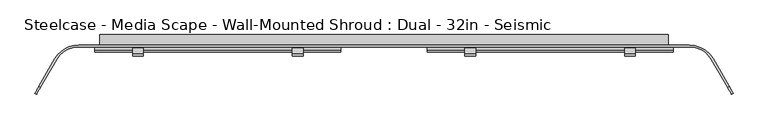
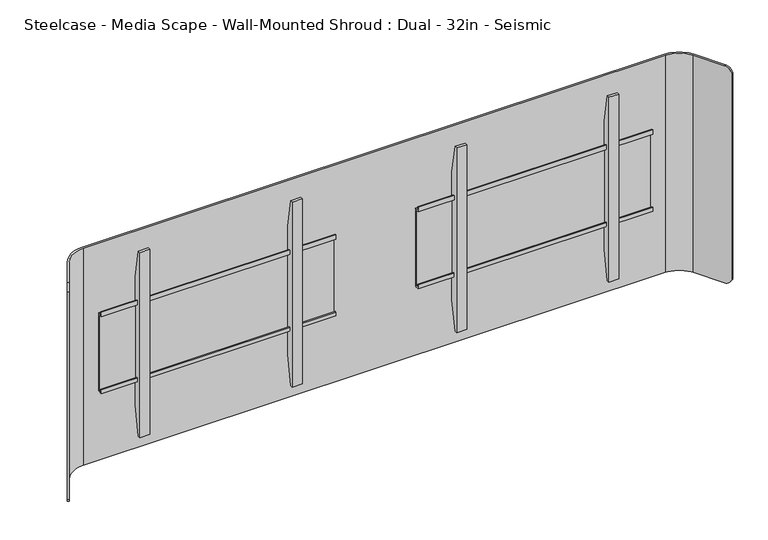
"""IFC4 building model written with IfcOpenShell, lengths in millimetres: furniture geometry, Steelcase - Media Scape - Wall-Mounted Shroud : Dual - 32in - Seismic."""

from ifc_helpers import new_model, si_unit, frame, origin, place, context, project, spatial, polyline, circle_curve, outline, extrude, source, transform, mapped, element, save
from ifc_brep_helpers import plane_surface, cylinder_surface, revolved_surface, advanced_brep


def steelcase_media_scape_wall_mounted_shroud_dual_32in_seismic_00f41bd9(model_context):
    return source(origin(), model_context, "Body", "SolidModel", [
        extrude(outline(polyline([(-42.4942785, 1237.6504726), (-42.4942785, 1249.6645649), (-39.8272175, 1249.6645649), (-39.8272175, 1240.317461), (-29.9720009, 1240.317461), (-29.9720009, 1025.9922438), (-42.3164551, 1025.9922438), (-42.3164551, 1036.9142515), (-39.649394, 1036.9142515), (-39.649394, 1028.657052), (-32.6531824, 1028.657052), (-32.6531824, 1237.6504726), (-42.4942785, 1237.6504726)])), frame((107.061, 0.0, 0.0), z_axis=(1.0, 0.0, 0.0), x_axis=(0.0, 1.0, 0.0)), (0.0, 0.0, 1.0), 609.6),
        extrude(outline(polyline([(-32.6531824, 1308.5971148), (-32.6531824, 956.7825607), (-46.5049349, 879.1546949), (-53.3399828, 879.1546949), (-53.3399828, 1387.1547192), (-46.5050076, 1387.1547192), (-32.6531824, 1308.5971148)])), frame((200.662426, 0.0, 0.0), z_axis=(1.0, 0.0, 0.0), x_axis=(0.0, 1.0, 0.0)), (0.0, 0.0, 1.0), 26.1592872),
        extrude(outline(polyline([(-32.6531824, 1308.5971148), (-32.6531824, 956.7825607), (-46.5049349, 879.1546949), (-53.3399828, 879.1546949), (-53.3399828, 1387.1547192), (-46.5050076, 1387.1547192), (-32.6531824, 1308.5971148)])), frame((596.9002868, 0.0, 0.0), z_axis=(1.0, 0.0, 0.0), x_axis=(0.0, 1.0, 0.0)), (0.0, 0.0, 1.0), 26.1592872),
        extrude(outline(polyline([(-42.4942785, 1237.6504726), (-42.4942785, 1249.6645649), (-39.8272175, 1249.6645649), (-39.8272175, 1240.317461), (-29.9720009, 1240.317461), (-29.9720009, 1025.9922438), (-42.3164551, 1025.9922438), (-42.3164551, 1036.9142515), (-39.649394, 1036.9142515), (-39.649394, 1028.657052), (-32.6531824, 1028.657052), (-32.6531824, 1237.6504726), (-42.4942785, 1237.6504726)])), frame((-716.661, 0.0, 0.0), z_axis=(1.0, 0.0, 0.0), x_axis=(0.0, 1.0, 0.0)), (0.0, 0.0, 1.0), 609.6),
        extrude(outline(polyline([(-32.6531824, 1308.5971148), (-32.6531824, 956.7825607), (-46.5049349, 879.1546949), (-53.3399828, 879.1546949), (-53.3399828, 1387.1547192), (-46.5050076, 1387.1547192), (-32.6531824, 1308.5971148)])), frame((-226.8217132, 0.0, 0.0), z_axis=(1.0, 0.0, 0.0), x_axis=(0.0, 1.0, 0.0)), (0.0, 0.0, 1.0), 26.1592872),
        extrude(outline(polyline([(-32.6531824, 1308.5971148), (-32.6531824, 956.7825607), (-46.5049349, 879.1546949), (-53.3399828, 879.1546949), (-53.3399828, 1387.1547192), (-46.5050076, 1387.1547192), (-32.6531824, 1308.5971148)])), frame((-623.059574, 0.0, 0.0), z_axis=(1.0, 0.0, 0.0), x_axis=(0.0, 1.0, 0.0)), (0.0, 0.0, 1.0), 26.1592872),
        extrude(outline(polyline([(704.85, -25.4), (-704.85, -25.4), (-704.85, 0.0), (704.85, 0.0), (704.85, -25.4)])), frame((0.0, 0.0, 835.914), z_axis=(0.0, 0.0, 1.0), x_axis=(1.0, 0.0, 0.0)), (0.0, 0.0, 1.0), 76.2508167),
        advanced_brep(
        [(-811.6586135, -61.722, 1432.814), (-756.666002, -29.9720009, 1432.814), (756.666, -29.9720009, 1432.814), (811.6586135, -61.722, 1432.814), (851.779586, -131.2135628, 1432.814), (855.7390541, -128.9275628, 1432.814), (815.6180817, -59.436, 1432.814), (756.666002, -25.4, 1432.814), (-756.666, -25.4, 1432.814), (-815.6180817, -59.436, 1432.814), (-855.7421659, -128.9329524, 1432.814), (-851.7826977, -131.2189524, 1432.814), (-815.6180817, -59.436, 835.914), (-756.666002, -25.4, 835.914), (756.666, -25.4, 835.914), (815.6180817, -59.436, 835.914), (855.7906629, -129.0169518, 835.914), (851.8311948, -131.3029518, 835.914), (811.6586135, -61.722, 835.914), (756.666002, -29.9720009, 835.914), (-756.666, -29.9720009, 835.914), (-811.6586135, -61.722, 835.914), (-851.8454014, -131.3275584, 835.914), (-855.8048695, -129.0415584, 835.914), (-865.3090632, -145.5033047, 849.5242766), (-865.3090632, -145.5033047, 1418.8227735), (-861.3495951, -147.7893047, 1418.8227735), (-861.3495951, -147.7893047, 849.5242766), (861.3270866, -147.7503189, 849.4756893), (861.3270866, -147.7503189, 1418.9433849), (865.2865547, -145.4643189, 1418.9433849), (865.2865547, -145.4643189, 849.4756893)],
        [
            (0, 1, circle_curve(frame((-756.666002, -93.4719991, 1432.814), z_axis=(0.0, 0.0, -1.0), x_axis=(0.0, 1.0, 0.0)), 63.4999981)),
            (1, 2),
            (2, 3, circle_curve(frame((756.666002, -93.4719991, 1432.814), z_axis=(0.0, 0.0, -1.0), x_axis=(0.0, 1.0, 0.0)), 63.4999981)),
            (3, 4),
            (4, 5),
            (5, 6),
            (6, 7, circle_curve(frame((756.6660004, -93.472, 1432.814), z_axis=(0.0, 0.0, 1.0), x_axis=(0.0, 1.0, 0.0)), 68.072)),
            (7, 8),
            (8, 9, circle_curve(frame((-756.6660004, -93.472, 1432.814), z_axis=(0.0, 0.0, 1.0), x_axis=(0.0, 1.0, 0.0)), 68.072)),
            (9, 10),
            (10, 11),
            (11, 0),
            (12, 13, circle_curve(frame((-756.6660004, -93.472, 835.914), z_axis=(0.0, 0.0, -1.0), x_axis=(0.0, 1.0, 0.0)), 68.072)),
            (13, 14),
            (14, 15, circle_curve(frame((756.6660004, -93.472, 835.914), z_axis=(0.0, 0.0, -1.0), x_axis=(0.0, 1.0, 0.0)), 68.072)),
            (15, 16),
            (16, 17),
            (17, 18),
            (18, 19, circle_curve(frame((756.666002, -93.4719991, 835.914), z_axis=(0.0, 0.0, 1.0), x_axis=(0.0, 1.0, 0.0)), 63.4999981)),
            (19, 20),
            (20, 21, circle_curve(frame((-756.666002, -93.4719991, 835.914), z_axis=(0.0, 0.0, 1.0), x_axis=(0.0, 1.0, 0.0)), 63.4999981)),
            (21, 22),
            (22, 23),
            (23, 12),
            (0, 21),
            (20, 1),
            (8, 13),
            (12, 9),
            (23, 24, circle_curve(frame((-855.8048695, -129.0415584, 855.9928872), z_axis=(-0.8660254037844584, 0.49999999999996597, 0.0), x_axis=(-0.49999999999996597, -0.8660254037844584, 0.0)), 20.0788872)),
            (24, 25),
            (25, 10, circle_curve(frame((-855.7421659, -128.9329524, 1412.7351128), z_axis=(-0.8660254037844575, 0.4999999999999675, 0.0), x_axis=(-0.4999999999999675, -0.8660254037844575, 0.0)), 20.0788872)),
            (26, 25),
            (24, 27),
            (27, 26),
            (11, 26, circle_curve(frame((-851.7826977, -131.2189524, 1412.7351128), z_axis=(0.8660254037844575, -0.4999999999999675, 0.0), x_axis=(-0.4999999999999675, -0.8660254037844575, 0.0)), 20.0788872)),
            (27, 22, circle_curve(frame((-851.8454014, -131.3275584, 855.9928872), z_axis=(0.8660254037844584, -0.49999999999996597, 0.0), x_axis=(-0.49999999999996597, -0.8660254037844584, 0.0)), 20.0788872)),
            (7, 14),
            (19, 2),
            (3, 18),
            (17, 28, circle_curve(frame((851.8311948, -131.3029518, 855.9928872), z_axis=(-0.8660254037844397, -0.49999999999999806, 0.0), x_axis=(0.49999999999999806, -0.8660254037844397, 0.0)), 20.0788872)),
            (28, 29),
            (29, 4, circle_curve(frame((851.779586, -131.2135628, 1412.7351128), z_axis=(-0.8660254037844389, -0.49999999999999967, 0.0), x_axis=(0.49999999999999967, -0.8660254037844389, 0.0)), 20.0788872)),
            (30, 29),
            (28, 31),
            (31, 30),
            (15, 6),
            (5, 30, circle_curve(frame((855.7390541, -128.9275628, 1412.7351128), z_axis=(0.8660254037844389, 0.49999999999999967, 0.0), x_axis=(0.49999999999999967, -0.8660254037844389, 0.0)), 20.0788872)),
            (31, 16, circle_curve(frame((855.7906629, -129.0169518, 855.9928872), z_axis=(0.8660254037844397, 0.49999999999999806, 0.0), x_axis=(0.49999999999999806, -0.8660254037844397, 0.0)), 20.0788872)),
        ],
        [
            plane_surface(frame((-756.666002, -29.9720009, 1432.814), z_axis=(0.0, 0.0, 1.0), x_axis=(1.0, 0.0, 0.0))),
            plane_surface(frame((-756.666002, -29.9720009, 835.914), z_axis=(0.0, 0.0, -1.0), x_axis=(-1.0, 0.0, 0.0))),
            revolved_surface(polyline([(-756.666002, -29.972001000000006, 835.914), (-756.666002, -29.972001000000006, 1432.814)]), (-756.666002, -93.4719991, 835.914), (0.0, 0.0, -1.0)),
            cylinder_surface(frame((-756.6660004, -93.472, 835.914), z_axis=(0.0, 0.0, 1.0), x_axis=(0.0, 1.0, 0.0)), 68.072),
            plane_surface(frame((-815.6180817, -59.436, 1432.814), z_axis=(-0.8660254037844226, 0.5000000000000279, 0.0), x_axis=(0.0, 0.0, -1.0))),
            plane_surface(frame((-865.3090632, -145.5033047, 1432.814), z_axis=(-0.5000000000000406, -0.8660254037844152, 0.0), x_axis=(0.0, 0.0, -1.0))),
            plane_surface(frame((-861.3495951, -147.7893047, 1432.814), z_axis=(0.8660254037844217, -0.5000000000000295, 0.0), x_axis=(0.0, 0.0, -1.0))),
            plane_surface(frame((756.666, -25.4, 1432.814), z_axis=(0.0, 1.0, 0.0), x_axis=(0.0, 0.0, -1.0))),
            plane_surface(frame((-756.666, -29.9720009, 1432.814), z_axis=(0.0, -1.0, 0.0), x_axis=(0.0, 0.0, -1.0))),
            plane_surface(frame((811.6586135, -61.722, 1432.814), z_axis=(-0.8660254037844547, -0.4999999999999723, 0.0), x_axis=(0.0, 0.0, -1.0))),
            plane_surface(frame((861.3270866, -147.7503189, 1432.814), z_axis=(0.4999999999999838, -0.866025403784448, 0.0), x_axis=(0.0, 0.0, -1.0))),
            plane_surface(frame((865.2865547, -145.4643189, 1432.814), z_axis=(0.8660254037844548, 0.49999999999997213, 0.0), x_axis=(0.0, 0.0, -1.0))),
            cylinder_surface(frame((756.6660004, -93.472, 835.914), z_axis=(0.0, 0.0, 1.0), x_axis=(0.0, 1.0, 0.0)), 68.072),
            revolved_surface(polyline([(756.666002, -29.972001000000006, 835.914), (756.666002, -29.972001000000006, 1432.814)]), (756.666002, -93.4719991, 835.914), (0.0, 0.0, -1.0)),
            cylinder_surface(frame((-851.7826977, -131.2189524, 1412.7351128), z_axis=(0.8660254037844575, -0.4999999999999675, 0.0), x_axis=(-0.4999999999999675, -0.8660254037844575, 0.0)), 20.0788872),
            cylinder_surface(frame((-851.8454014, -131.3275584, 855.9928872), z_axis=(0.8660254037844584, -0.49999999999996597, 0.0), x_axis=(-0.49999999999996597, -0.8660254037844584, 0.0)), 20.0788872),
            cylinder_surface(frame((866.8864297, -122.4916225, 1412.7351128), z_axis=(0.8660254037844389, 0.49999999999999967, 0.0), x_axis=(0.49999999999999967, -0.8660254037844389, 0.0)), 20.0788872),
            cylinder_surface(frame((864.0789695, -124.2316958, 855.9928872), z_axis=(0.8660254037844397, 0.49999999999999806, 0.0), x_axis=(0.49999999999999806, -0.8660254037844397, 0.0)), 20.0788872),
        ],
        [
            (0, [[1, 2, 3, 4, 5, 6, 7, 8, 9, 10, 11, 12]]),
            (1, [[13, 14, 15, 16, 17, 18, 19, 20, 21, 22, 23, 24]]),
            (2, [[-1, 25, -21, 26]]),
            (3, [[-9, 27, -13, 28]]),
            (4, [[-28, -24, 29, 30, 31, -10]]),
            (5, [[32, -30, 33, 34]]),
            (6, [[-25, -12, 35, -34, 36, -22]]),
            (7, [[-8, 37, -14, -27]]),
            (8, [[-2, -26, -20, 38]]),
            (9, [[39, -18, 40, 41, 42, -4]]),
            (10, [[43, -41, 44, 45]]),
            (11, [[46, -6, 47, -45, 48, -16]]),
            (12, [[-7, -46, -15, -37]]),
            (13, [[-3, -38, -19, -39]]),
            (14, [[-11, -31, -32, -35]]),
            (15, [[-23, -36, -33, -29]]),
            (16, [[-5, -42, -43, -47]]),
            (17, [[-17, -48, -44, -40]]),
        ],
    ),
        extrude(outline(polyline([(912.1648167, 641.3499879), (912.1648167, 704.85), (1356.614, 704.85), (1356.614, -704.85), (912.1648167, -704.85), (912.1648167, -642.3433465), (1293.1139516, -642.3433465), (1293.1139516, 641.3499879), (912.1648167, 641.3499879)])), frame((0.0, -25.4, 0.0), z_axis=(0.0, 1.0, 0.0), x_axis=(0.0, 0.0, 1.0)), (0.0, 0.0, 1.0), 25.4),
    ])


if __name__ == "__main__":
    model = new_model("IFC4")
    model_context = context("Model", 3, world=origin())
    ifc_project = project(units=[si_unit("LENGTHUNIT", "METRE", prefix="MILLI")], contexts=[model_context])
    site = spatial("IfcSite", under=ifc_project)
    building = spatial("IfcBuilding", under=site)
    placement = place(None, origin())
    steelcase_media_scape_wall_mounted_shroud_dual_32in_seismic_shape = steelcase_media_scape_wall_mounted_shroud_dual_32in_seismic_00f41bd9(model_context)
    element("IfcFurniture", 1, ObjectType="Steelcase - Media Scape - Wall-Mounted Shroud : Dual - 32in - Seismic", at=placement, inside=building, context=model_context, shape_type="MappedRepresentation", body=[
        mapped(steelcase_media_scape_wall_mounted_shroud_dual_32in_seismic_shape, transform((0.0, 0.0, 0.0), x_axis=(1.0, 0.0, 0.0), y_axis=(0.0, 1.0, 0.0), z_axis=(0.0, 0.0, 1.0))),
    ])
    save(model, "model.ifc")
